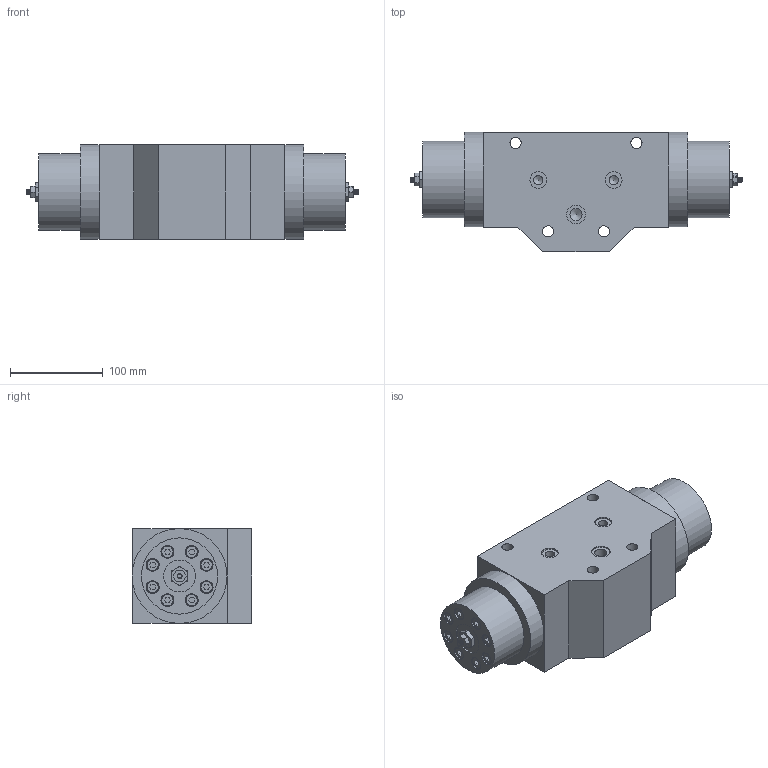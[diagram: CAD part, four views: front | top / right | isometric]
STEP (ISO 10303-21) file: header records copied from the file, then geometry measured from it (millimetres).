
FILE_DESCRIPTION(/* description */ (''),/* implementation_level */ '2;1');
FILE_NAME(/* name */ '5.prt.stp',/* time_stamp */ '2023-05-03T15:31:57+08:00',/* author */ (''),/* organization */ (''),/* preprocessor_version */ 'ST-DEVELOPER v16.7',/* originating_system */ 'SIEMENS PLM Software NX 12.0',/* authorisation */ '');
FILE_SCHEMA (('AUTOMOTIVE_DESIGN { 1 0 10303 214 3 1 1 1 }'));
Length unit declared in the file: millimetre
Products named in the file (1): 5
Bounding box: 357 x 128.75 x 102 mm (x, y, z)
Volume: 3073659.3 mm3; surface area: 287410.3 mm2
Topology: 27 solids, 27 shells, 518 faces, 1267 edges, 840 vertices
Faces by surface type: plane 301, cylinder 136, torus 42, cone 35, bspline 4
Full cylindrical faces by diameter (mm): 6.8 x16, 8 x16, 9 x16, 10 x2, 12 x4, 13 x17, 14 x16, 18 x2, 20 x1, 34.394 x2, 82 x2, 102 x2
Entity records: 17150 total; most frequent: CARTESIAN_POINT 5640, DIRECTION 2324, ORIENTED_EDGE 2024, EDGE_CURVE 1012, AXIS2_PLACEMENT_3D 875, EDGE_LOOP 792, VERTEX_POINT 769, LINE 574
